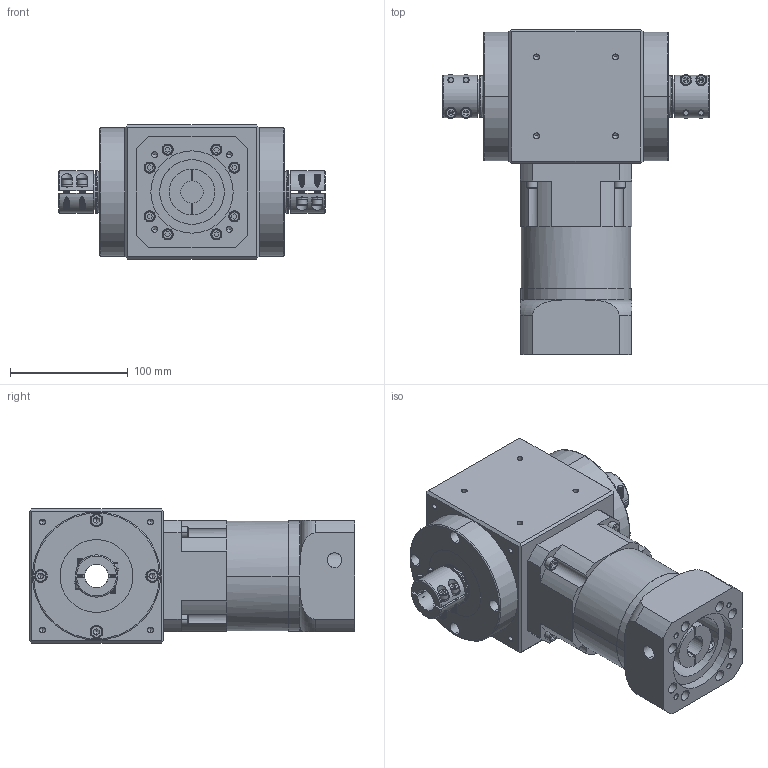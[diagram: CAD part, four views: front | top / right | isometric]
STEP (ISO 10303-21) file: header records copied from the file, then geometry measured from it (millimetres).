
FILE_DESCRIPTION (( 'STEP AP214' ), '1' );
FILE_NAME ('RAH090-L2-XX-D-19-70-90-M6_2019.STEP', '2019-03-22T10:50:59', ( 'Y' ), ( 'NCU' ), 'SwSTEP 2.0', 'SolidWorks 2016', '' );
FILE_SCHEMA (( 'AUTOMOTIVE_DESIGN' ));
Length unit declared in the file: millimetre
Products named in the file (1): RAH090-L2-XX-D-19-70-90-M6_2019
Bounding box: 227 x 276.5 x 114 mm (x, y, z)
Volume: 2992403.4 mm3; surface area: 244592.3 mm2
Topology: 2 solids, 18 shells, 1367 faces, 3621 edges, 2186 vertices
Faces by surface type: cylinder 580, plane 514, cone 131, bspline 92, torus 50
Entity records: 119817 total; most frequent: CARTESIAN_POINT 87603, ORIENTED_EDGE 7082, DIRECTION 5971, EDGE_CURVE 3541, AXIS2_PLACEMENT_3D 2254, VERTEX_POINT 2186, EDGE_LOOP 1529, LINE 1463
